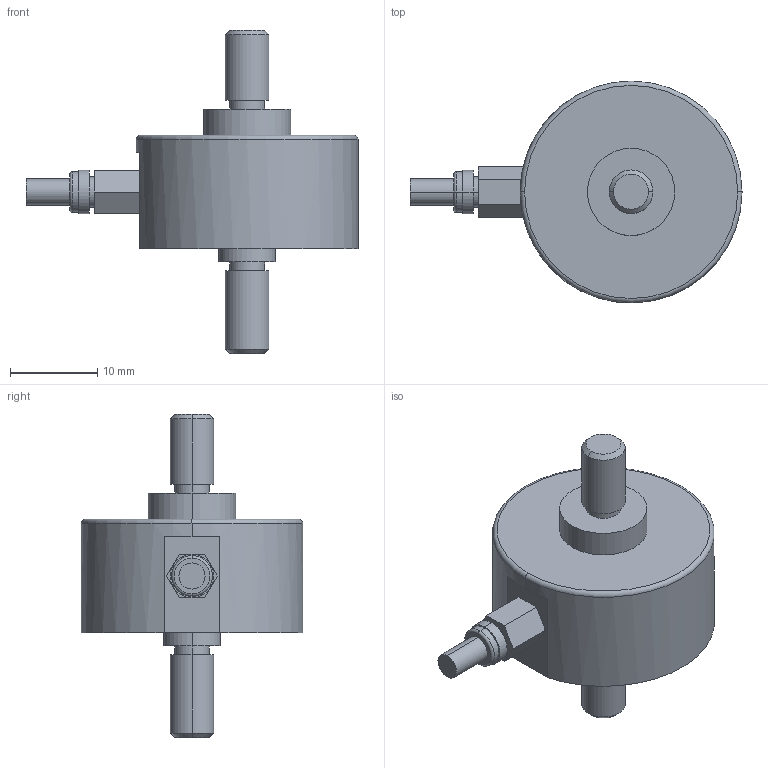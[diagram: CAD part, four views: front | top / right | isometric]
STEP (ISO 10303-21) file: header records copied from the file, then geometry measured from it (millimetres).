
FILE_DESCRIPTION (( 'STEP AP214' ), '1' );
FILE_NAME ('拉压（1-20kg）.STEP', '2020-01-03T06:17:39', ( '' ), ( '' ), 'SwSTEP 2.0', 'SolidWorks 2014', '' );
FILE_SCHEMA (( 'AUTOMOTIVE_DESIGN' ));
Length unit declared in the file: millimetre
Products named in the file (1): 嶺揤ㄗ1-20kgㄘ
Bounding box: 38.02 x 25.4 x 37 mm (x, y, z)
Volume: 7409.1 mm3; surface area: 2671.7 mm2
Topology: 1 solids, 1 shells, 51 faces, 106 edges, 68 vertices
Faces by surface type: cylinder 22, plane 21, torus 4, cone 4
Entity records: 1683 total; most frequent: DIRECTION 268, CARTESIAN_POINT 226, ORIENTED_EDGE 212, AXIS2_PLACEMENT_3D 110, EDGE_CURVE 106, VERTEX_POINT 68, EDGE_LOOP 62, CIRCLE 58
